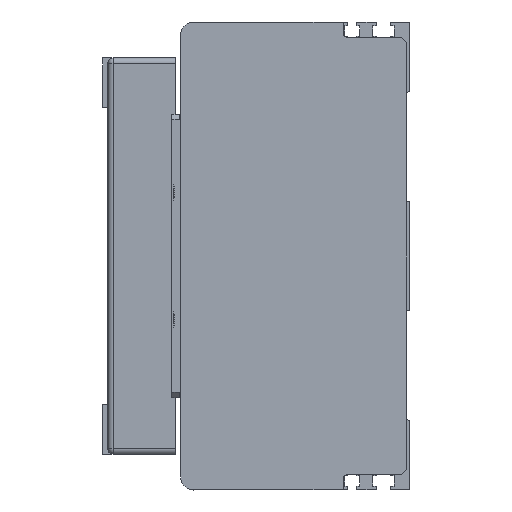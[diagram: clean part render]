
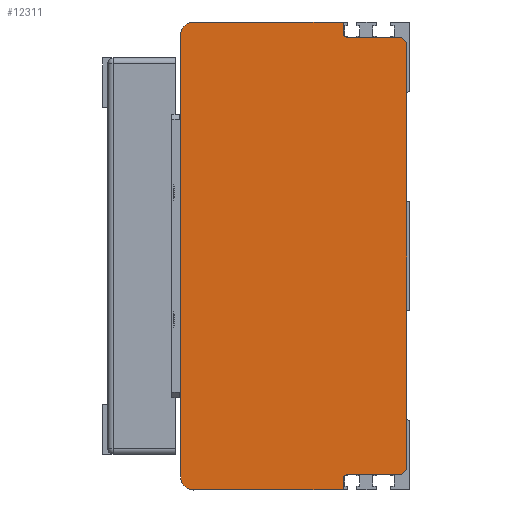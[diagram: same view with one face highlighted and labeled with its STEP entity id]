
A CAD part, left-side view. The second image highlights one B-rep face of the part: STEP entity #12311.
In plain terms, the highlighted planar face has unit normal (-1, 0, 0) as drawn and (0, 0, -1) by its records, which use the part's own axes.
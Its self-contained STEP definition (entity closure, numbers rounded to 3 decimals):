
#909=CIRCLE('',#13138,2.);
#910=CIRCLE('',#13139,5.);
#911=CIRCLE('',#13140,5.);
#912=CIRCLE('',#13141,2.);
#1204=FACE_OUTER_BOUND('',#1948,.T.);
#1948=EDGE_LOOP('',(#8336,#8337,#8338,#8339,#8340,#8341,#8342,#8343,#8344,
#8345,#8346,#8347,#8348,#8349));
#2829=LINE('',#17255,#4003);
#2830=LINE('',#17257,#4004);
#2831=LINE('',#17261,#4005);
#2832=LINE('',#17263,#4006);
#2833=LINE('',#17267,#4007);
#2834=LINE('',#17271,#4008);
#2835=LINE('',#17273,#4009);
#2836=LINE('',#17277,#4010);
#2837=LINE('',#17279,#4011);
#2838=LINE('',#17280,#4012);
#4003=VECTOR('',#14203,2.828);
#4004=VECTOR('',#14204,20.5);
#4005=VECTOR('',#14207,4.);
#4006=VECTOR('',#14208,57.5);
#4007=VECTOR('',#14211,170.);
#4008=VECTOR('',#14214,57.5);
#4009=VECTOR('',#14215,4.);
#4010=VECTOR('',#14218,20.5);
#4011=VECTOR('',#14219,2.828);
#4012=VECTOR('',#14220,164.);
#5197=VERTEX_POINT('',#17253);
#5198=VERTEX_POINT('',#17254);
#5199=VERTEX_POINT('',#17256);
#5200=VERTEX_POINT('',#17258);
#5201=VERTEX_POINT('',#17260);
#5202=VERTEX_POINT('',#17262);
#5203=VERTEX_POINT('',#17264);
#5204=VERTEX_POINT('',#17266);
#5205=VERTEX_POINT('',#17268);
#5206=VERTEX_POINT('',#17270);
#5207=VERTEX_POINT('',#17272);
#5208=VERTEX_POINT('',#17274);
#5209=VERTEX_POINT('',#17276);
#5210=VERTEX_POINT('',#17278);
#6456=EDGE_CURVE('',#5197,#5198,#2829,.T.);
#6457=EDGE_CURVE('',#5197,#5199,#2830,.T.);
#6458=EDGE_CURVE('',#5200,#5199,#909,.T.);
#6459=EDGE_CURVE('',#5200,#5201,#2831,.T.);
#6460=EDGE_CURVE('',#5201,#5202,#2832,.T.);
#6461=EDGE_CURVE('',#5202,#5203,#910,.T.);
#6462=EDGE_CURVE('',#5203,#5204,#2833,.T.);
#6463=EDGE_CURVE('',#5204,#5205,#911,.T.);
#6464=EDGE_CURVE('',#5205,#5206,#2834,.T.);
#6465=EDGE_CURVE('',#5206,#5207,#2835,.T.);
#6466=EDGE_CURVE('',#5208,#5207,#912,.T.);
#6467=EDGE_CURVE('',#5208,#5209,#2836,.T.);
#6468=EDGE_CURVE('',#5210,#5209,#2837,.T.);
#6469=EDGE_CURVE('',#5210,#5198,#2838,.T.);
#8336=ORIENTED_EDGE('',*,*,#6456,.F.);
#8337=ORIENTED_EDGE('',*,*,#6457,.T.);
#8338=ORIENTED_EDGE('',*,*,#6458,.F.);
#8339=ORIENTED_EDGE('',*,*,#6459,.T.);
#8340=ORIENTED_EDGE('',*,*,#6460,.T.);
#8341=ORIENTED_EDGE('',*,*,#6461,.T.);
#8342=ORIENTED_EDGE('',*,*,#6462,.T.);
#8343=ORIENTED_EDGE('',*,*,#6463,.T.);
#8344=ORIENTED_EDGE('',*,*,#6464,.T.);
#8345=ORIENTED_EDGE('',*,*,#6465,.T.);
#8346=ORIENTED_EDGE('',*,*,#6466,.F.);
#8347=ORIENTED_EDGE('',*,*,#6467,.T.);
#8348=ORIENTED_EDGE('',*,*,#6468,.F.);
#8349=ORIENTED_EDGE('',*,*,#6469,.T.);
#11878=PLANE('',#13137);
#12311=ADVANCED_FACE('',(#1204),#11878,.T.);
#13137=AXIS2_PLACEMENT_3D('',#17252,#14201,#14202);
#13138=AXIS2_PLACEMENT_3D('',#17259,#14205,#14206);
#13139=AXIS2_PLACEMENT_3D('',#17265,#14209,#14210);
#13140=AXIS2_PLACEMENT_3D('',#17269,#14212,#14213);
#13141=AXIS2_PLACEMENT_3D('',#17275,#14216,#14217);
#14201=DIRECTION('center_axis',(0.,0.,
-1.));
#14202=DIRECTION('ref_axis',(0.,-1.,0.));
#14203=DIRECTION('',(0.707,-0.707,0.));
#14204=DIRECTION('',(0.,1.,0.));
#14205=DIRECTION('center_axis',(0.,0.,
-1.));
#14206=DIRECTION('ref_axis',(0.707,0.707,0.));
#14207=DIRECTION('',(-1.,0.,0.));
#14208=DIRECTION('',(0.,1.,0.));
#14209=DIRECTION('center_axis',(0.,0.,
-1.));
#14210=DIRECTION('ref_axis',(-1.,0.,0.));
#14211=DIRECTION('',(1.,0.,0.));
#14212=DIRECTION('center_axis',(0.,0.,
-1.));
#14213=DIRECTION('ref_axis',(0.,1.,0.));
#14214=DIRECTION('',(0.,-1.,0.));
#14215=DIRECTION('',(-1.,0.,0.));
#14216=DIRECTION('center_axis',(0.,0.,
-1.));
#14217=DIRECTION('ref_axis',(-0.707,0.707,0.));
#14218=DIRECTION('',(0.,-1.,0.));
#14219=DIRECTION('',(0.707,0.707,0.));
#14220=DIRECTION('',(-1.,0.,0.));
#17252=CARTESIAN_POINT('Origin',(317.669,46.746,-506.483));
#17253=CARTESIAN_POINT('',(-91.,-80.,-506.483));
#17254=CARTESIAN_POINT('',(-89.,-82.,-506.483));
#17255=CARTESIAN_POINT('',(-20.019,-150.981,-506.483));
#17256=CARTESIAN_POINT('',(-91.,-59.5,-506.483));
#17257=CARTESIAN_POINT('',(-91.,-17.627,-506.483));
#17258=CARTESIAN_POINT('',(-93.,-57.5,-506.483));
#17259=CARTESIAN_POINT('Origin',(-93.,-59.5,-506.483));
#17260=CARTESIAN_POINT('',(-97.,-57.5,-506.483));
#17261=CARTESIAN_POINT('',(-91.,-57.5,-506.483));
#17262=CARTESIAN_POINT('',(-97.,0.,-506.483));
#17263=CARTESIAN_POINT('',(-97.,-57.5,-506.483));
#17264=CARTESIAN_POINT('',(-92.,5.,-506.483));
#17265=CARTESIAN_POINT('Origin',(-92.,0.,
-506.483));
#17266=CARTESIAN_POINT('',(78.,5.,-506.483));
#17267=CARTESIAN_POINT('',(-92.,5.,-506.483));
#17268=CARTESIAN_POINT('',(83.,0.,-506.483));
#17269=CARTESIAN_POINT('Origin',(78.,0.,
-506.483));
#17270=CARTESIAN_POINT('',(83.,-57.5,-506.483));
#17271=CARTESIAN_POINT('',(83.,0.,-506.483));
#17272=CARTESIAN_POINT('',(79.,-57.5,-506.483));
#17273=CARTESIAN_POINT('',(83.,-57.5,-506.483));
#17274=CARTESIAN_POINT('',(77.,-59.5,-506.483));
#17275=CARTESIAN_POINT('Origin',(79.,-59.5,-506.483));
#17276=CARTESIAN_POINT('',(77.,-80.,-506.483));
#17277=CARTESIAN_POINT('',(77.,-57.5,-506.483));
#17278=CARTESIAN_POINT('',(75.,-82.,-506.483));
#17279=CARTESIAN_POINT('',(168.354,11.354,-506.483));
#17280=CARTESIAN_POINT('',(81.,-82.,-506.483));
